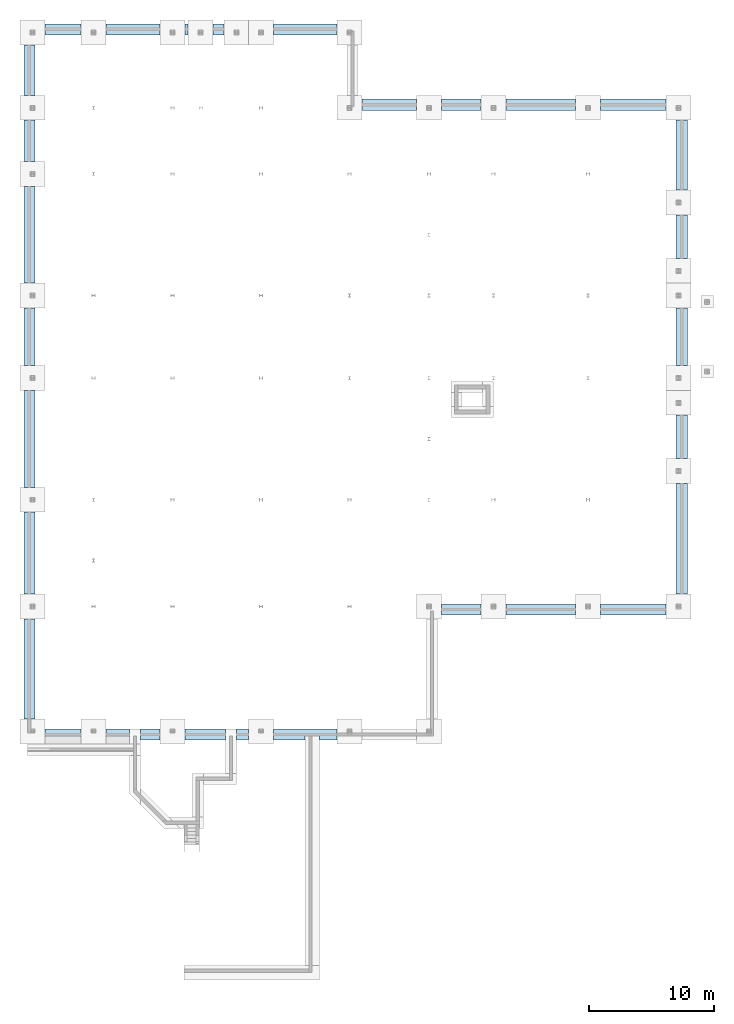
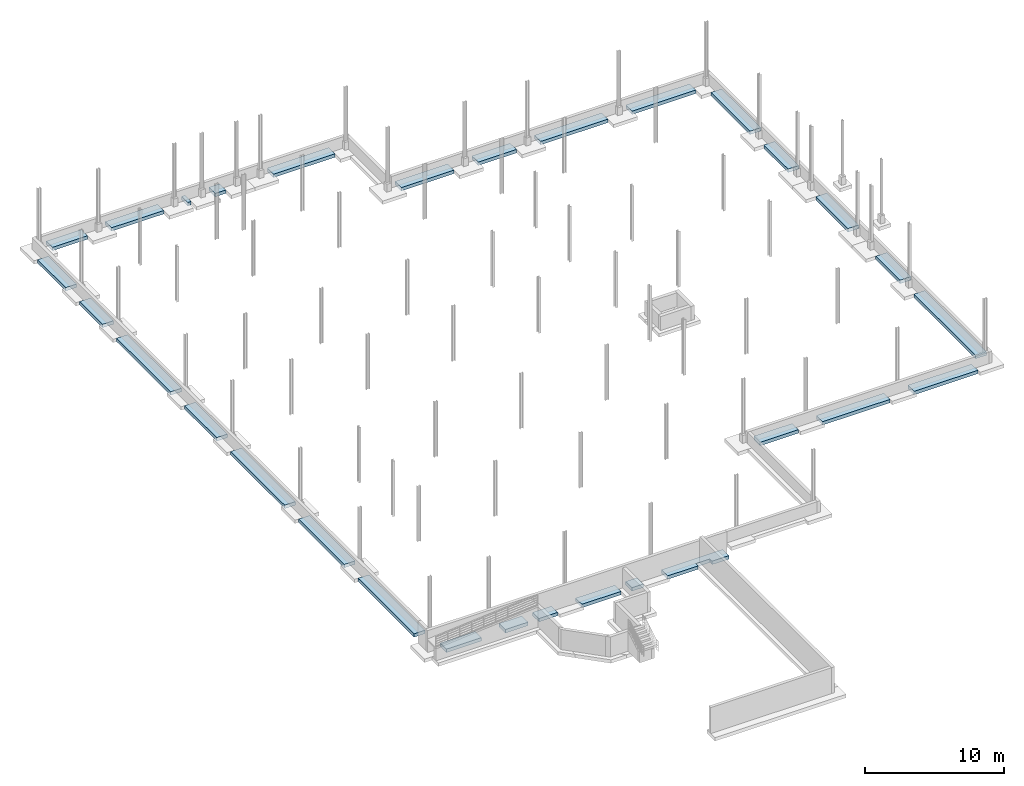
# One storey, part 11 of 11: 6 footings.
"""IFC2X3 building model written with IfcOpenShell, lengths in metres."""

from ifc_helpers import new_model, entity, si_unit, converted_unit, frame, origin, place, context, project, spatial, face_set, surface_model, element, save


model = new_model("IFC2X3")

# Units and contexts
model_context = context("Model", 3, precision=1e-09, world=origin())
plan_context = context("Plan", 3, precision=1e-09, world=origin())
ifc_project = project(units=[si_unit("LENGTHUNIT", "METRE"), si_unit("AREAUNIT", "SQUARE_METRE"), si_unit("VOLUMEUNIT", "CUBIC_METRE"), converted_unit("PLANEANGLEUNIT", "DEGREE", entity("IfcRatioMeasure", 0.01745329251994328), si_unit("PLANEANGLEUNIT", "RADIAN"), dimensions=[0, 0, 0, 0, 0, 0, 0]), si_unit("TIMEUNIT", "SECOND")], contexts=[model_context, plan_context])

# Site, building, storey
site_placement = place(None, origin())
site = spatial("IfcSite", under=ifc_project, at=site_placement, Name="Default", CompositionType="ELEMENT")
building_placement = place(site_placement, origin())
building = spatial("IfcBuilding", under=site, at=building_placement, CompositionType="ELEMENT")
storey_placement = place(building_placement, frame((0.0, 0.0, -1.0)))
storey = spatial("IfcBuildingStorey", under=building, at=storey_placement, Name="TOF Footing", CompositionType="ELEMENT", Elevation=-1.000000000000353)

# Footings
footing_1_placement = place(storey_placement, frame((-25.44, 49.88799999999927, -0.299999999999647)))
element("IfcFooting", 1, at=footing_1_placement, inside=storey, Name="Wall Foundation:Bearing Footing - 900 x 300", ObjectType="Wall Foundation:Bearing Footing - 900 x 300", PredefinedType="STRIP_FOOTING", context=model_context, shape_type="SurfaceModel", body=[
    surface_model("IfcFaceBasedSurfaceModel", [(24.43999999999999, 0.0, 0.3000000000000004), (24.43999999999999, 0.9000000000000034, 0.3000000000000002), (19.15999999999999, 0.9000000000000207, 0.3000000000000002), (19.15999999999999, 0.0, 0.3000000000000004), (17.15999999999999, 0.0, 0.3000000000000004), (17.15999999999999, 0.9000000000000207, 0.3000000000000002), (11.56002500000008, 0.900000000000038, 0.3000000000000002), (11.56002500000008, 0.0, 0.3000000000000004), (9.560025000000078, 0.0, 0.3000000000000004), (9.560025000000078, 0.9000000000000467, 0.3000000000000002), (6.380000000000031, 0.9000000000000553, 0.3000000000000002), (6.380000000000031, 0.0, 0.3000000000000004), (4.380000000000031, 0.0, 0.3000000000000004), (4.380000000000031, 0.900000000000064, 0.3000000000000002), (0.0, 0.9000000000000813, 0.3000000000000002), (0.0, 0.0, 0.3000000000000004), (19.15999999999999, 0.9000000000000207, 0.0), (24.43999999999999, 0.9000000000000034, 0.0), (11.56002500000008, 0.900000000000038, 0.0), (17.15999999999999, 0.9000000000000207, 0.0), (6.380000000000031, 0.9000000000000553, 0.0), (9.560025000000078, 0.9000000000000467, 0.0), (0.0, 0.9000000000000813, 0.0), (4.380000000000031, 0.900000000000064, 0.0), (19.15999999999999, 0.0, 0.0), (24.43999999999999, 0.0, 0.0), (11.56002500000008, 0.0, 0.0), (17.15999999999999, 0.0, 0.0), (6.380000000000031, 0.0, 0.0), (9.560025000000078, 0.0, 0.0), (0.0, 0.0, 0.0), (4.380000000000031, 0.0, 0.0)], [face_set([[[0, 1, 2, 3]], [[4, 5, 6, 7]], [[8, 9, 10, 11]], [[12, 13, 14, 15]], [[1, 2, 16, 17]], [[5, 6, 18, 19]], [[9, 10, 20, 21]], [[13, 14, 22, 23]], [[17, 16, 24, 25]], [[19, 18, 26, 27]], [[21, 20, 28, 29]], [[23, 22, 30, 31]], [[25, 0, 3, 24]], [[27, 4, 7, 26]], [[29, 8, 11, 28]], [[31, 12, 15, 30]], [[1, 0, 25, 17]], [[5, 4, 27, 19]], [[3, 24, 16, 2]], [[9, 8, 29, 21]], [[7, 26, 18, 6]], [[13, 12, 31, 23]], [[11, 28, 20, 10]], [[15, 30, 22, 14]]])]),
])
footing_2_placement = place(storey_placement, frame((-52.59800000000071, 1.0, -0.299999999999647)))
element("IfcFooting", 2, at=footing_2_placement, inside=storey, Name="Wall Foundation:Bearing Footing - 900 x 300", ObjectType="Wall Foundation:Bearing Footing - 900 x 300", PredefinedType="STRIP_FOOTING", context=model_context, shape_type="SurfaceModel", body=[
    surface_model("IfcFaceBasedSurfaceModel", [(0.0, 0.0, 0.3000000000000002), (0.0, 0.0, 0.0), (0.9000000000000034, 0.0, 0.0), (0.9000000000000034, 0.0, 0.3000000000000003), (0.9000000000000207, 8.039999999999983, 0.3000000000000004), (0.0, 8.039999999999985, 0.3000000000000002), (0.9000000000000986, 54.14000000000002, 0.3000000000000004), (0.0, 54.14000000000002, 0.3000000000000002), (0.0, 50.08999999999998, 0.3000000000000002), (0.90000000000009, 50.08999999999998, 0.3000000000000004), (0.9000000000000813, 48.08999999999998, 0.3000000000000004), (0.0, 48.08999999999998, 0.3000000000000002), (0.0, 44.77999999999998, 0.3000000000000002), (0.9000000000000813, 44.77999999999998, 0.3000000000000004), (0.9000000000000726, 42.77999999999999, 0.3000000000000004), (0.0, 42.77999999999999, 0.3000000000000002), (0.0, 35.00999999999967, 0.3000000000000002), (0.900000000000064, 35.00999999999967, 0.3000000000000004), (0.9000000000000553, 33.00999999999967, 0.3000000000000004), (0.0, 33.00999999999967, 0.3000000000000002), (0.0, 28.37999999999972, 0.3000000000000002), (0.9000000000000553, 28.37999999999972, 0.3000000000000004), (0.9000000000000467, 26.37999999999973, 0.3000000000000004), (0.0, 26.37999999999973, 0.3000000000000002), (0.0, 18.61000000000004, 0.3000000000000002), (0.900000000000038, 18.61000000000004, 0.3000000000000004), (0.9000000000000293, 16.61000000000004, 0.3000000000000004), (0.0, 16.61000000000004, 0.3000000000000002), (0.0, 10.03999999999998, 0.3000000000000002), (0.9000000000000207, 10.03999999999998, 0.3000000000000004), (0.0, 8.039999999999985, 0.0), (0.0, 50.08999999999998, 0.0), (0.0, 54.14000000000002, 0.0), (0.0, 44.77999999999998, 0.0), (0.0, 48.08999999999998, 0.0), (0.0, 35.00999999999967, 0.0), (0.0, 42.77999999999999, 0.0), (0.0, 28.37999999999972, 0.0), (0.0, 33.00999999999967, 0.0), (0.0, 18.61000000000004, 0.0), (0.0, 26.37999999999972, 0.0), (0.0, 10.03999999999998, 0.0), (0.0, 16.61000000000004, 0.0), (0.9000000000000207, 8.039999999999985, 0.0), (0.90000000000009, 50.08999999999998, 0.0), (0.9000000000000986, 54.14000000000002, 0.0), (0.9000000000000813, 44.77999999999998, 0.0), (0.9000000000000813, 48.08999999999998, 0.0), (0.900000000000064, 35.00999999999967, 0.0), (0.9000000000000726, 42.77999999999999, 0.0), (0.9000000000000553, 28.37999999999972, 0.0), (0.9000000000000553, 33.00999999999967, 0.0), (0.900000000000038, 18.61000000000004, 0.0), (0.9000000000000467, 26.37999999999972, 0.0), (0.9000000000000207, 10.03999999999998, 0.0), (0.9000000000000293, 16.61000000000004, 0.0)], [face_set([[[0, 1, 2, 3]], [[0, 3, 4, 5]], [[6, 7, 8, 9]], [[10, 11, 12, 13]], [[14, 15, 16, 17]], [[18, 19, 20, 21]], [[22, 23, 24, 25]], [[26, 27, 28, 29]], [[1, 30, 5, 0]], [[7, 8, 31, 32]], [[11, 12, 33, 34]], [[15, 16, 35, 36]], [[19, 20, 37, 38]], [[23, 24, 39, 40]], [[27, 28, 41, 42]], [[2, 43, 30, 1]], [[32, 31, 44, 45]], [[34, 33, 46, 47]], [[36, 35, 48, 49]], [[38, 37, 50, 51]], [[40, 39, 52, 53]], [[42, 41, 54, 55]], [[3, 2, 43, 4]], [[45, 6, 9, 44]], [[47, 10, 13, 46]], [[49, 14, 17, 48]], [[51, 18, 21, 50]], [[53, 22, 25, 52]], [[55, 26, 29, 54]], [[7, 32, 45, 6]], [[9, 8, 31, 44]], [[11, 34, 47, 10]], [[13, 12, 33, 46]], [[15, 36, 49, 14]], [[17, 16, 35, 48]], [[19, 38, 51, 18]], [[21, 20, 37, 50]], [[23, 40, 53, 22]], [[25, 24, 39, 52]], [[27, 42, 55, 26]], [[29, 28, 41, 54]], [[5, 30, 43, 4]]])]),
])
footing_3_placement = place(storey_placement, frame((-0.2020000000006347, 11.03999999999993, -0.299999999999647)))
element("IfcFooting", 3, at=footing_3_placement, inside=storey, Name="Wall Foundation:Bearing Footing - 900 x 300", ObjectType="Wall Foundation:Bearing Footing - 900 x 300", PredefinedType="STRIP_FOOTING", context=model_context, shape_type="SurfaceModel", body=[
    surface_model("IfcFaceBasedSurfaceModel", [(0.0, 0.0, 0.3000000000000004), (0.9, 0.0, 0.3000000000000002), (0.9000000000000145, 8.868893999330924, 0.3000000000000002), (0.0, 8.868893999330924, 0.3000000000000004), (0.0, 10.86889399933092, 0.3000000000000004), (0.9000000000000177, 10.86889399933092, 0.3000000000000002), (0.9000000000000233, 14.35881579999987, 0.3000000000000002), (0.0, 14.35881579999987, 0.3000000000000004), (0.0, 18.33999999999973, 0.3000000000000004), (0.9000000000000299, 18.33999999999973, 0.3000000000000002), (0.9000000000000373, 22.96999999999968, 0.3000000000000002), (0.0, 22.96999999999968, 0.3000000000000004), (0.0, 26.95124479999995, 0.3000000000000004), (0.9000000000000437, 26.95124479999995, 0.3000000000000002), (0.9000000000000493, 30.43764480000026, 0.3000000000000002), (0.0, 30.43764480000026, 0.3000000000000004), (0.0, 32.43764480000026, 0.3000000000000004), (0.9000000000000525, 32.43764480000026, 0.3000000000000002), (0.9000000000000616, 38.05, 0.3000000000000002), (0.0, 38.05, 0.3000000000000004), (0.9, 0.0, 0.0), (0.9000000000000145, 8.868893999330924, 0.0), (0.9000000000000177, 10.86889399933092, 0.0), (0.9000000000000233, 14.35881579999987, 0.0), (0.9000000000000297, 18.33999999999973, 0.0), (0.9000000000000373, 22.96999999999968, 0.0), (0.9000000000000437, 26.95124479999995, 0.0), (0.9000000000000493, 30.43764480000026, 0.0), (0.9000000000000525, 32.43764480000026, 0.0), (0.9000000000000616, 38.05, 0.0), (0.0, 8.868893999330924, 0.0), (0.0, 0.0, 0.0), (0.0, 14.35881579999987, 0.0), (0.0, 10.86889399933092, 0.0), (0.0, 22.96999999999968, 0.0), (0.0, 18.33999999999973, 0.0), (0.0, 30.43764480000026, 0.0), (0.0, 26.95124479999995, 0.0), (0.0, 38.05, 0.0), (0.0, 32.43764480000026, 0.0)], [face_set([[[0, 1, 2, 3]], [[4, 5, 6, 7]], [[8, 9, 10, 11]], [[12, 13, 14, 15]], [[16, 17, 18, 19]], [[1, 20, 21, 2]], [[5, 22, 23, 6]], [[9, 24, 25, 10]], [[13, 26, 27, 14]], [[17, 28, 29, 18]], [[20, 21, 30, 31]], [[22, 23, 32, 33]], [[24, 25, 34, 35]], [[26, 27, 36, 37]], [[28, 29, 38, 39]], [[31, 0, 3, 30]], [[33, 4, 7, 32]], [[35, 8, 11, 34]], [[37, 12, 15, 36]], [[39, 16, 19, 38]], [[1, 0, 31, 20]], [[5, 4, 33, 22]], [[3, 30, 21, 2]], [[7, 32, 23, 6]], [[9, 8, 35, 24]], [[11, 34, 25, 10]], [[13, 12, 37, 26]], [[17, 16, 39, 28]], [[15, 36, 27, 14]], [[19, 38, 29, 18]]])]),
])
footing_4_placement = place(storey_placement, frame((-50.89999999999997, 55.93799999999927, -0.299999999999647)))
element("IfcFooting", 4, at=footing_4_placement, inside=storey, Name="Wall Foundation:Bearing Footing - 900 x 300", ObjectType="Wall Foundation:Bearing Footing - 900 x 300", PredefinedType="STRIP_FOOTING", context=model_context, shape_type="SurfaceModel", body=[
    surface_model("IfcFaceBasedSurfaceModel", [(23.45999999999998, 0.0, 0.3000000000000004), (23.45999999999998, 0.9000000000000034, 0.3000000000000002), (18.34999999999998, 0.9000000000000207, 0.3000000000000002), (18.34999999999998, 0.0, 0.3000000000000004), (14.38999999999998, 0.0, 0.3000000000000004), (14.38999999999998, 0.9000000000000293, 0.3000000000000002), (13.50999999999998, 0.9000000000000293, 0.3000000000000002), (13.50999999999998, 0.0, 0.3000000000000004), (11.50999999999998, 0.0, 0.3000000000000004), (11.50999999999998, 0.900000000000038, 0.3000000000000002), (11.23999999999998, 0.900000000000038, 0.3000000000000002), (11.23999999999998, 0.0, 0.3000000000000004), (9.239999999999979, 0.0, 0.3000000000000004), (9.239999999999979, 0.9000000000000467, 0.3000000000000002), (4.900000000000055, 0.900000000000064, 0.3000000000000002), (4.900000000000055, 0.0, 0.3000000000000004), (2.900000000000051, 0.0, 0.3000000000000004), (2.900000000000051, 0.900000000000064, 0.3000000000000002), (0.0, 0.9000000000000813, 0.3000000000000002), (0.0, 0.0, 0.3000000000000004), (18.34999999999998, 0.9000000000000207, 0.0), (23.45999999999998, 0.9000000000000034, 0.0), (13.50999999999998, 0.9000000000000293, 0.0), (14.38999999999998, 0.9000000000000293, 0.0), (11.23999999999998, 0.900000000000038, 0.0), (11.50999999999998, 0.900000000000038, 0.0), (4.900000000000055, 0.900000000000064, 0.0), (9.239999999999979, 0.9000000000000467, 0.0), (0.0, 0.9000000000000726, 0.0), (2.900000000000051, 0.900000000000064, 0.0), (18.34999999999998, 0.0, 0.0), (23.45999999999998, 0.0, 0.0), (13.50999999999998, 0.0, 0.0), (14.38999999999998, 0.0, 0.0), (11.23999999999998, 0.0, 0.0), (11.50999999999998, 0.0, 0.0), (4.900000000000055, 0.0, 0.0), (9.239999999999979, 0.0, 0.0), (0.0, 0.0, 0.0), (2.900000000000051, 0.0, 0.0)], [face_set([[[0, 1, 2, 3]], [[4, 5, 6, 7]], [[8, 9, 10, 11]], [[12, 13, 14, 15]], [[16, 17, 18, 19]], [[1, 2, 20, 21]], [[5, 6, 22, 23]], [[9, 10, 24, 25]], [[13, 14, 26, 27]], [[17, 18, 28, 29]], [[21, 20, 30, 31]], [[23, 22, 32, 33]], [[25, 24, 34, 35]], [[27, 26, 36, 37]], [[29, 28, 38, 39]], [[31, 0, 3, 30]], [[33, 4, 7, 32]], [[35, 8, 11, 34]], [[37, 12, 15, 36]], [[39, 16, 19, 38]], [[1, 0, 31, 21]], [[3, 30, 20, 2]], [[5, 4, 33, 23]], [[9, 8, 35, 25]], [[7, 32, 22, 6]], [[13, 12, 37, 27]], [[11, 34, 24, 10]], [[17, 16, 39, 29]], [[15, 36, 26, 14]], [[19, 38, 28, 18]]])]),
])
footing_5_placement = place(storey_placement, frame((-50.90000000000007, -0.6980000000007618, -1.215)))
element("IfcFooting", 5, at=footing_5_placement, inside=storey, Name="Wall Foundation:Bearing Footing - 900 x 300", ObjectType="Wall Foundation:Bearing Footing - 900 x 300", PredefinedType="STRIP_FOOTING", context=model_context, shape_type="SurfaceModel", body=[
    surface_model("IfcFaceBasedSurfaceModel", [(23.45999999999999, 0.0, 0.3000000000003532), (23.45999999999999, 0.0, 0.0), (23.45999999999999, 0.9, 0.0), (23.45999999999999, 0.9, 0.3000000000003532), (18.34999999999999, 0.9000000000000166, 0.3000000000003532), (18.34999999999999, 0.0, 0.3000000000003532), (20.89143816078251, 0.0, 0.3000000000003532), (20.89143816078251, 0.3180000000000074, 0.3000000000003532), (22.05543816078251, 0.3180000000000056, 0.3000000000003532), (22.05543816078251, 0.0, 0.3000000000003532), (7.681599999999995, 0.9000000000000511, 0.3000000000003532), (7.681599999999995, 0.0, 0.3000000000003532), (9.239999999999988, 0.0, 0.3000000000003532), (9.239999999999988, 0.9000000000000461, 0.3000000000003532), (6.781599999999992, 0.0, 0.3000000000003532), (6.781599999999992, 0.900000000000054, 0.3000000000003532), (4.900000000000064, 0.9000000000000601, 0.3000000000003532), (4.900000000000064, 0.0, 0.3000000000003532), (15.38843816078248, 0.9000000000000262, 0.3000000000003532), (15.38843816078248, 0.0, 0.3000000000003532), (16.34999999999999, 0.0, 0.3000000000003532), (16.34999999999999, 0.9000000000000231, 0.3000000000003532), (14.48843816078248, 0.0, 0.3000000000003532), (14.48843816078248, 0.900000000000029, 0.3000000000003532), (11.23999999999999, 0.9000000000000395, 0.3000000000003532), (11.23999999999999, 0.0, 0.3000000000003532), (0.0, 0.9000000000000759, 0.3000000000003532), (0.0, 0.0, 0.3000000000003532), (2.900000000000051, 0.0, 0.3000000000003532), (2.90000000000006, 0.9000000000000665, 0.3000000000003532), (22.05543816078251, 0.0, 0.0), (6.781599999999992, 0.0, 0.0), (4.900000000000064, 0.0, 0.0), (9.239999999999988, 0.0, 0.0), (7.681599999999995, 0.0, 0.0), (16.34999999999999, 0.0, 0.0), (15.38843816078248, 0.0, 0.0), (14.48843816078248, 0.0, 0.0), (11.23999999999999, 0.0, 0.0), (20.89143816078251, 0.0, 0.0), (18.34999999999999, 0.0, 0.0), (2.900000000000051, 0.0, 0.0), (0.0, 0.0, 0.0), (18.34999999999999, 0.9000000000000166, 0.0), (20.89143816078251, 0.3180000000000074, 0.0), (22.05543816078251, 0.3180000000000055, 0.0), (9.239999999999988, 0.9000000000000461, 0.0), (7.681599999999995, 0.9000000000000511, 0.0), (6.781599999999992, 0.900000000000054, 0.0), (4.900000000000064, 0.9000000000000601, 0.0), (16.34999999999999, 0.9000000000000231, 0.0), (15.38843816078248, 0.9000000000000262, 0.0), (14.48843816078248, 0.900000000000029, 0.0), (11.23999999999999, 0.9000000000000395, 0.0), (2.900000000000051, 0.9000000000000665, 0.0), (0.0, 0.9000000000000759, 0.0)], [face_set([[[0, 1, 2, 3]], [[0, 3, 4, 5, 6, 7, 8, 9]], [[10, 11, 12, 13]], [[14, 15, 16, 17]], [[18, 19, 20, 21]], [[22, 23, 24, 25]], [[26, 27, 28, 29]], [[1, 30, 9, 0]], [[31, 32, 17, 14]], [[11, 12, 33, 34]], [[19, 20, 35, 36]], [[37, 38, 25, 22]], [[39, 40, 5, 6]], [[27, 28, 41, 42]], [[2, 43, 40, 39, 44, 45, 30, 1]], [[34, 33, 46, 47]], [[48, 49, 32, 31]], [[36, 35, 50, 51]], [[52, 53, 38, 37]], [[42, 41, 54, 55]], [[3, 2, 43, 4]], [[15, 48, 49, 16]], [[47, 10, 13, 46]], [[51, 18, 21, 50]], [[23, 52, 53, 24]], [[55, 26, 29, 54]], [[15, 14, 31, 48]], [[11, 34, 47, 10]], [[45, 44, 7, 8]], [[44, 7, 6, 39]], [[19, 36, 51, 18]], [[23, 22, 37, 52]], [[8, 9, 30, 45]], [[27, 42, 55, 26]], [[29, 28, 41, 54]], [[17, 32, 49, 16]], [[13, 12, 33, 46]], [[25, 38, 53, 24]], [[21, 20, 35, 50]], [[5, 40, 43, 4]]])]),
])
footing_6_placement = place(storey_placement, frame((-19.06000000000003, 9.341999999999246, -0.299999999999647)))
element("IfcFooting", 6, at=footing_6_placement, inside=storey, Name="Wall Foundation:Bearing Footing - 900 x 300", ObjectType="Wall Foundation:Bearing Footing - 900 x 300", PredefinedType="STRIP_FOOTING", context=model_context, shape_type="SurfaceModel", body=[
    surface_model("IfcFaceBasedSurfaceModel", [(0.0, 0.9000000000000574, 0.3000000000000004), (0.0, 0.0, 0.3000000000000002), (3.180025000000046, 0.0, 0.3000000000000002), (3.180025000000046, 0.9000000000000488, 0.3000000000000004), (5.180025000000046, 0.9000000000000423, 0.3000000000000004), (5.180025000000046, 0.0, 0.3000000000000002), (10.77999999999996, 0.0, 0.3000000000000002), (10.77999999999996, 0.9000000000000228, 0.3000000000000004), (12.77999999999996, 0.9000000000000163, 0.3000000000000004), (12.77999999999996, 0.0, 0.3000000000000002), (18.05999999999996, 0.0, 0.3000000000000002), (18.05999999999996, 0.9000000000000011, 0.3000000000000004), (0.0, 0.0, 0.0), (3.180025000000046, 0.0, 0.0), (5.180025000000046, 0.0, 0.0), (10.77999999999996, 0.0, 0.0), (12.77999999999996, 0.0, 0.0), (18.05999999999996, 0.0, 0.0), (3.180025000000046, 0.9000000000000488, 0.0), (0.0, 0.9000000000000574, 0.0), (10.77999999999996, 0.900000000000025, 0.0), (5.180025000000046, 0.9000000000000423, 0.0), (18.05999999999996, 0.9000000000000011, 0.0), (12.77999999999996, 0.9000000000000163, 0.0)], [face_set([[[0, 1, 2, 3]], [[4, 5, 6, 7]], [[8, 9, 10, 11]], [[1, 12, 13, 2]], [[5, 14, 15, 6]], [[9, 16, 17, 10]], [[12, 13, 18, 19]], [[14, 15, 20, 21]], [[16, 17, 22, 23]], [[19, 18, 3, 0]], [[21, 20, 7, 4]], [[23, 22, 11, 8]], [[1, 12, 19, 0]], [[3, 2, 13, 18]], [[5, 14, 21, 4]], [[7, 6, 15, 20]], [[9, 16, 23, 8]], [[11, 10, 17, 22]]])]),
])

save(model, "model.ifc")
